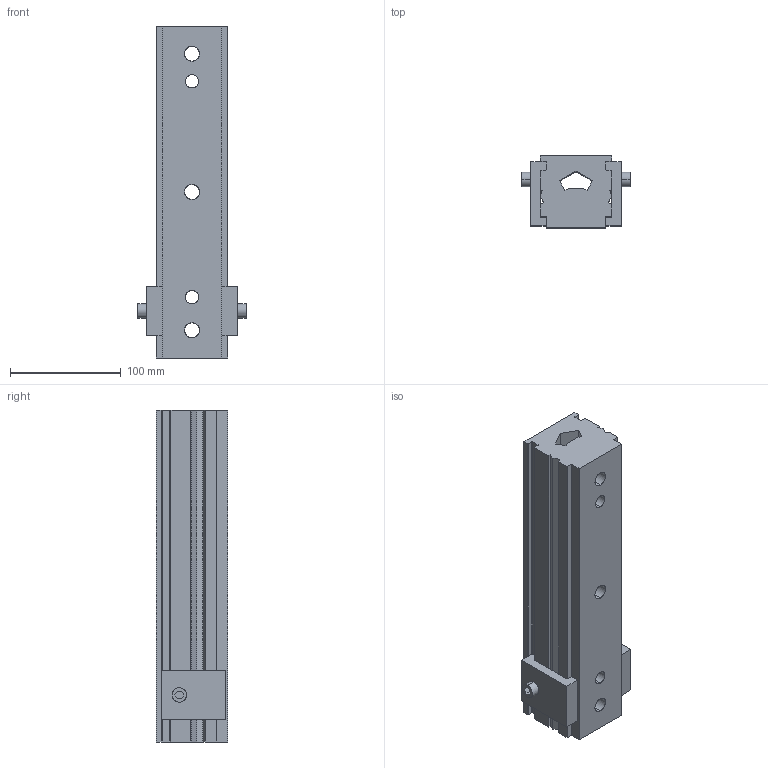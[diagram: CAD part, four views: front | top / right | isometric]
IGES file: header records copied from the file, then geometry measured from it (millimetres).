
Start section: START RECORD GO HERE.
Global section: file name: A945-03-0630-01-S-BC.igs; native system: DASSAULT SYSTEMES CATIA V5 R20 - www.3ds.com; preprocessor: CATIA Version 5 Release 20 ; author: Utente; organization: NB04-ASUS; date: 20200417.120456; units: millimetre
Bounding box: 98 x 65 x 300 mm (x, y, z)
Surface area: 131357.2 mm2 (no closed solid volume)
Topology: 0 solids, 0 shells, 117 faces, 684 edges, 684 vertices
Faces by surface type: extrusion 93, revolution 24
